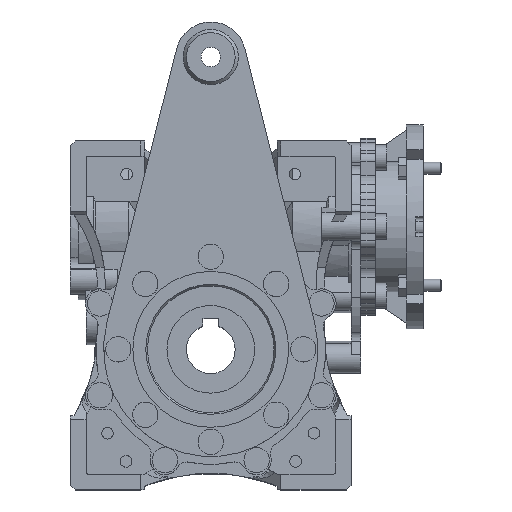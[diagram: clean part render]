
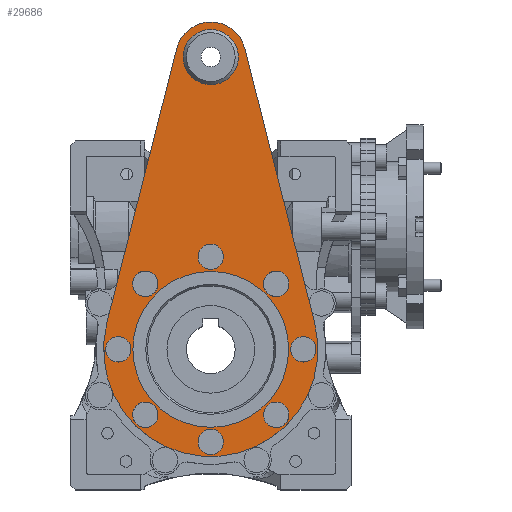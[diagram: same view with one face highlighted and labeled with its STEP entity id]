
A CAD part, top view. The second image highlights one B-rep face of the part: STEP entity #29686.
In plain terms, the highlighted planar face has unit normal (0, 0, 1).
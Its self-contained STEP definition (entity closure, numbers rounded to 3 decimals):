
#1136=PLANE('',#32844);
#2523=CIRCLE('',#32836,55.);
#2524=CIRCLE('',#32839,40.);
#2527=CIRCLE('',#32843,18.);
#2528=CIRCLE('',#32845,6.5);
#2529=CIRCLE('',#32846,6.5);
#2530=CIRCLE('',#32847,6.5);
#2531=CIRCLE('',#32848,6.5);
#2532=CIRCLE('',#32849,6.5);
#2533=CIRCLE('',#32850,6.5);
#2534=CIRCLE('',#32851,6.5);
#2535=CIRCLE('',#32852,6.5);
#2536=CIRCLE('',#32853,14.167);
#11213=ORIENTED_EDGE('',*,*,#15501,.T.);
#11214=ORIENTED_EDGE('',*,*,#15502,.T.);
#11215=ORIENTED_EDGE('',*,*,#15503,.T.);
#11216=ORIENTED_EDGE('',*,*,#15504,.T.);
#11217=ORIENTED_EDGE('',*,*,#15505,.T.);
#11218=ORIENTED_EDGE('',*,*,#15506,.T.);
#11219=ORIENTED_EDGE('',*,*,#15507,.T.);
#11220=ORIENTED_EDGE('',*,*,#15508,.T.);
#11221=ORIENTED_EDGE('',*,*,#15509,.T.);
#11222=ORIENTED_EDGE('',*,*,#15497,.F.);
#11223=ORIENTED_EDGE('',*,*,#15489,.T.);
#11224=ORIENTED_EDGE('',*,*,#15493,.T.);
#11225=ORIENTED_EDGE('',*,*,#15496,.T.);
#11226=ORIENTED_EDGE('',*,*,#15500,.T.);
#15489=EDGE_CURVE('',#18390,#18389,#20939,.T.);
#15493=EDGE_CURVE('',#18389,#18392,#2523,.T.);
#15496=EDGE_CURVE('',#18392,#18394,#20944,.T.);
#15497=EDGE_CURVE('',#18395,#18395,#2524,.T.);
#15500=EDGE_CURVE('',#18394,#18390,#2527,.T.);
#15501=EDGE_CURVE('',#18397,#18397,#2528,.F.);
#15502=EDGE_CURVE('',#18398,#18398,#2529,.F.);
#15503=EDGE_CURVE('',#18399,#18399,#2530,.F.);
#15504=EDGE_CURVE('',#18400,#18400,#2531,.F.);
#15505=EDGE_CURVE('',#18401,#18401,#2532,.F.);
#15506=EDGE_CURVE('',#18402,#18402,#2533,.F.);
#15507=EDGE_CURVE('',#18403,#18403,#2534,.F.);
#15508=EDGE_CURVE('',#18404,#18404,#2535,.F.);
#15509=EDGE_CURVE('',#18405,#18405,#2536,.F.);
#18389=VERTEX_POINT('',#51203);
#18390=VERTEX_POINT('',#51205);
#18392=VERTEX_POINT('',#51211);
#18394=VERTEX_POINT('',#51217);
#18395=VERTEX_POINT('',#51221);
#18397=VERTEX_POINT('',#51229);
#18398=VERTEX_POINT('',#51231);
#18399=VERTEX_POINT('',#51233);
#18400=VERTEX_POINT('',#51235);
#18401=VERTEX_POINT('',#51237);
#18402=VERTEX_POINT('',#51239);
#18403=VERTEX_POINT('',#51241);
#18404=VERTEX_POINT('',#51243);
#18405=VERTEX_POINT('',#51245);
#20939=LINE('',#51204,#23463);
#20944=LINE('',#51218,#23468);
#23463=VECTOR('',#41608,1000.);
#23468=VECTOR('',#41621,1000.);
#25391=EDGE_LOOP('',(#11213));
#25392=EDGE_LOOP('',(#11214));
#25393=EDGE_LOOP('',(#11215));
#25394=EDGE_LOOP('',(#11216));
#25395=EDGE_LOOP('',(#11217));
#25396=EDGE_LOOP('',(#11218));
#25397=EDGE_LOOP('',(#11219));
#25398=EDGE_LOOP('',(#11220));
#25399=EDGE_LOOP('',(#11221));
#25400=EDGE_LOOP('',(#11222));
#25401=EDGE_LOOP('',(#11223,#11224,#11225,#11226));
#27365=FACE_BOUND('',#25391,.T.);
#27366=FACE_BOUND('',#25392,.T.);
#27367=FACE_BOUND('',#25393,.T.);
#27368=FACE_BOUND('',#25394,.T.);
#27369=FACE_BOUND('',#25395,.T.);
#27370=FACE_BOUND('',#25396,.T.);
#27371=FACE_BOUND('',#25397,.T.);
#27372=FACE_BOUND('',#25398,.T.);
#27373=FACE_BOUND('',#25399,.T.);
#27374=FACE_BOUND('',#25400,.T.);
#27375=FACE_BOUND('',#25401,.T.);
#29686=ADVANCED_FACE('',(#27365,#27366,#27367,#27368,#27369,#27370,#27371,
#27372,#27373,#27374,#27375),#1136,.T.);
#32836=AXIS2_PLACEMENT_3D('',#51212,#41615,#41616);
#32839=AXIS2_PLACEMENT_3D('',#51220,#41624,#41625);
#32843=AXIS2_PLACEMENT_3D('',#51226,#41632,#41633);
#32844=AXIS2_PLACEMENT_3D('',#51227,#41634,#41635);
#32845=AXIS2_PLACEMENT_3D('',#51228,#41636,#41637);
#32846=AXIS2_PLACEMENT_3D('',#51230,#41638,#41639);
#32847=AXIS2_PLACEMENT_3D('',#51232,#41640,#41641);
#32848=AXIS2_PLACEMENT_3D('',#51234,#41642,#41643);
#32849=AXIS2_PLACEMENT_3D('',#51236,#41644,#41645);
#32850=AXIS2_PLACEMENT_3D('',#51238,#41646,#41647);
#32851=AXIS2_PLACEMENT_3D('',#51240,#41648,#41649);
#32852=AXIS2_PLACEMENT_3D('',#51242,#41650,#41651);
#32853=AXIS2_PLACEMENT_3D('',#51244,#41652,#41653);
#41608=DIRECTION('',(0.247,0.969,0.));
#41615=DIRECTION('',(0.,0.,1.));
#41616=DIRECTION('',(1.,0.,0.));
#41621=DIRECTION('',(0.247,-0.969,0.));
#41624=DIRECTION('',(0.,0.,1.));
#41625=DIRECTION('',(1.,0.,0.));
#41632=DIRECTION('',(0.,0.,1.));
#41633=DIRECTION('',(1.,0.,0.));
#41634=DIRECTION('',(0.,0.,1.));
#41635=DIRECTION('',(1.,0.,0.));
#41636=DIRECTION('',(0.,0.,1.));
#41637=DIRECTION('',(1.,0.,0.));
#41638=DIRECTION('',(0.,0.,1.));
#41639=DIRECTION('',(1.,0.,0.));
#41640=DIRECTION('',(0.,0.,1.));
#41641=DIRECTION('',(1.,0.,0.));
#41642=DIRECTION('',(0.,0.,1.));
#41643=DIRECTION('',(1.,0.,0.));
#41644=DIRECTION('',(0.,0.,1.));
#41645=DIRECTION('',(1.,0.,0.));
#41646=DIRECTION('',(0.,0.,1.));
#41647=DIRECTION('',(1.,0.,0.));
#41648=DIRECTION('',(0.,0.,1.));
#41649=DIRECTION('',(1.,0.,0.));
#41650=DIRECTION('',(0.,0.,1.));
#41651=DIRECTION('',(1.,0.,0.));
#41652=DIRECTION('',(0.,0.,1.));
#41653=DIRECTION('',(1.,0.,0.));
#51203=CARTESIAN_POINT('',(53.301,-13.567,3.));
#51204=CARTESIAN_POINT('',(17.444,-154.44,3.));
#51205=CARTESIAN_POINT('',(17.444,-154.44,3.));
#51211=CARTESIAN_POINT('',(-53.301,-13.567,3.));
#51212=CARTESIAN_POINT('',(0.,0.,3.));
#51217=CARTESIAN_POINT('',(-17.444,-154.44,3.));
#51218=CARTESIAN_POINT('',(-53.301,-13.567,3.));
#51220=CARTESIAN_POINT('',(0.,0.,3.));
#51221=CARTESIAN_POINT('',(40.,0.,3.));
#51226=CARTESIAN_POINT('',(0.,-150.,3.));
#51227=CARTESIAN_POINT('',(0.,0.,3.));
#51228=CARTESIAN_POINT('',(-47.5,0.,3.));
#51229=CARTESIAN_POINT('',(-41.,0.,3.));
#51230=CARTESIAN_POINT('',(-33.588,-33.588,3.));
#51231=CARTESIAN_POINT('',(-27.088,-33.588,3.));
#51232=CARTESIAN_POINT('',(0.,-47.5,3.));
#51233=CARTESIAN_POINT('',(6.5,-47.5,3.));
#51234=CARTESIAN_POINT('',(33.588,-33.588,3.));
#51235=CARTESIAN_POINT('',(40.088,-33.588,3.));
#51236=CARTESIAN_POINT('',(47.5,0.,3.));
#51237=CARTESIAN_POINT('',(54.,0.,3.));
#51238=CARTESIAN_POINT('',(33.588,33.588,3.));
#51239=CARTESIAN_POINT('',(40.088,33.588,3.));
#51240=CARTESIAN_POINT('',(-33.588,33.588,3.));
#51241=CARTESIAN_POINT('',(-27.088,33.588,3.));
#51242=CARTESIAN_POINT('',(0.,47.5,3.));
#51243=CARTESIAN_POINT('',(6.5,47.5,3.));
#51244=CARTESIAN_POINT('',(0.,-150.,3.));
#51245=CARTESIAN_POINT('',(14.167,-150.,3.));
